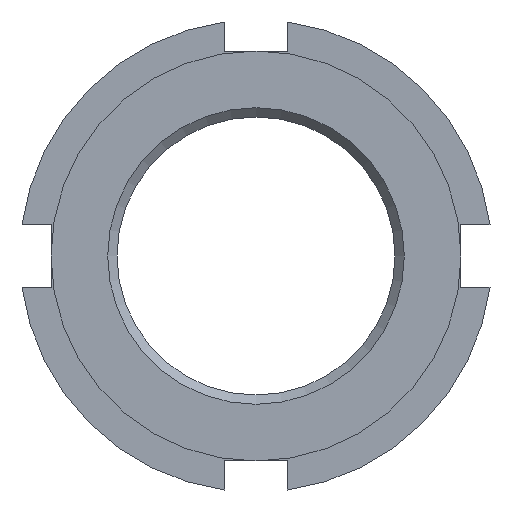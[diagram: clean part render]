
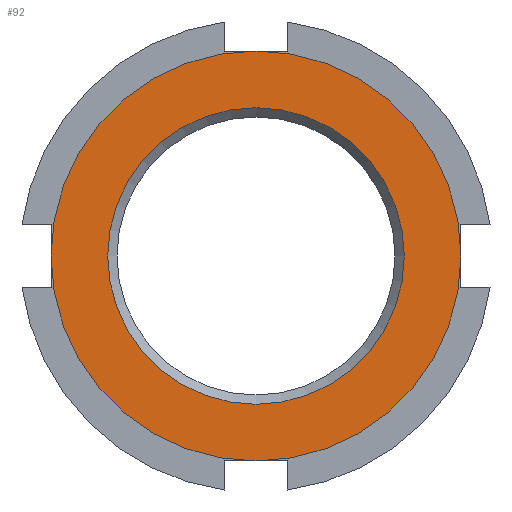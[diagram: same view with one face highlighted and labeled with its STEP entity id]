
A CAD part, left-side view. The second image highlights one B-rep face of the part: STEP entity #92.
In plain terms, the highlighted planar face has unit normal (-1, 0, 0).
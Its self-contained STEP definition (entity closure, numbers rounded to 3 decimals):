
#92 = ADVANCED_FACE( '', ( #150, #151 ), #152, .F. );
#150 = FACE_OUTER_BOUND( '', #228, .T. );
#151 = FACE_BOUND( '', #229, .T. );
#152 = PLANE( '', #230 );
#228 = EDGE_LOOP( '', ( #388 ) );
#229 = EDGE_LOOP( '', ( #389 ) );
#230 = AXIS2_PLACEMENT_3D( '', #390, #391, #392 );
#388 = ORIENTED_EDGE( '', *, *, #566, .F. );
#389 = ORIENTED_EDGE( '', *, *, #550, .T. );
#390 = CARTESIAN_POINT( '', ( 0., 0., 0. ) );
#391 = DIRECTION( '', ( 1., 0., 0. ) );
#392 = DIRECTION( '', ( 0., 0., -1. ) );
#550 = EDGE_CURVE( '', #656, #656, #657, .T. );
#566 = EDGE_CURVE( '', #680, #680, #681, .T. );
#656 = VERTEX_POINT( '', #829 );
#657 = CIRCLE( '', #830, 11.938 );
#680 = VERTEX_POINT( '', #869 );
#681 = CIRCLE( '', #870, 16.5 );
#829 = CARTESIAN_POINT( '', ( 0., 0., -11.938 ) );
#830 = AXIS2_PLACEMENT_3D( '', #947, #948, #949 );
#869 = CARTESIAN_POINT( '', ( 0., 0., -16.5 ) );
#870 = AXIS2_PLACEMENT_3D( '', #978, #979, #980 );
#947 = CARTESIAN_POINT( '', ( 0., 0., 0. ) );
#948 = DIRECTION( '', ( 1., 0., 0. ) );
#949 = DIRECTION( '', ( 0., 0., -1. ) );
#978 = CARTESIAN_POINT( '', ( 0., 0., 0. ) );
#979 = DIRECTION( '', ( 1., 0., 0. ) );
#980 = DIRECTION( '', ( 0., 0., -1. ) );
